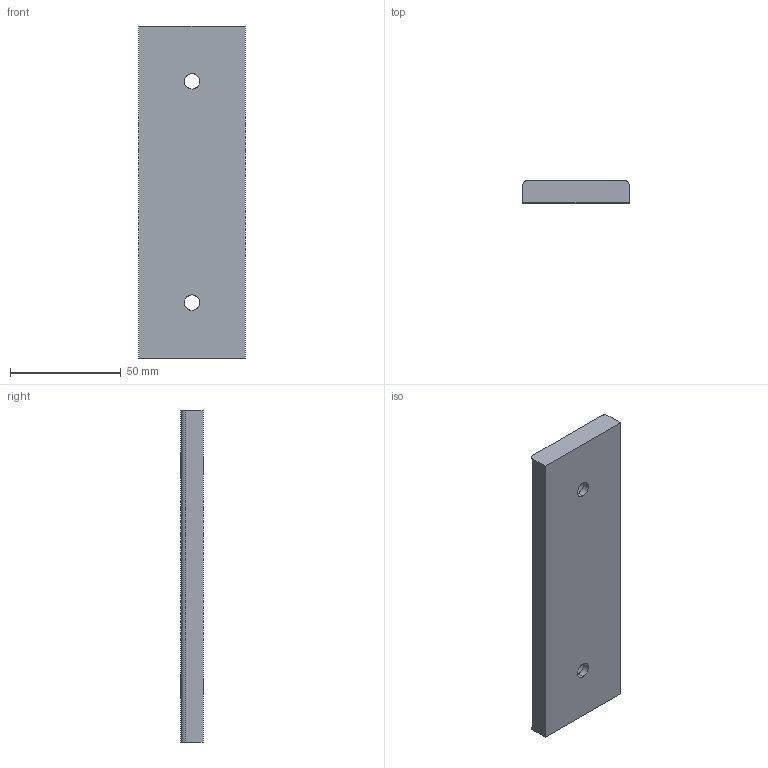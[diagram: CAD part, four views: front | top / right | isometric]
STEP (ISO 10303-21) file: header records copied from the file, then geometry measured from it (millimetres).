
FILE_DESCRIPTION(('CATIA V5 STEP Exchange'),'2;1');
FILE_NAME('C:\Users\Utente\Desktop\3D files A606\A606-048-150.stp','2020-04-13T18:08:43+00:00',('none'),('none'),'CATIA Version 5 Release 20 GA (IN-10)','CATIA V5 STEP AP203','none');
FILE_SCHEMA(('CONFIG_CONTROL_DESIGN'));
Length unit declared in the file: millimetre
Products named in the file (1): Noname
Bounding box: 48 x 10 x 150 mm (x, y, z)
Surface area: 18560.9 mm2 (no closed solid volume)
Topology: 0 solids, 14 shells, 18 faces, 76 edges, 68 vertices
Faces by surface type: cylinder 10, extrusion 8
Entity records: 1044 total; most frequent: CARTESIAN_POINT 415, DIRECTION 84, ORIENTED_EDGE 84, EDGE_CURVE 76, VERTEX_POINT 68, VECTOR 44, LINE 36, AXIS2_PLACEMENT_3D 31
